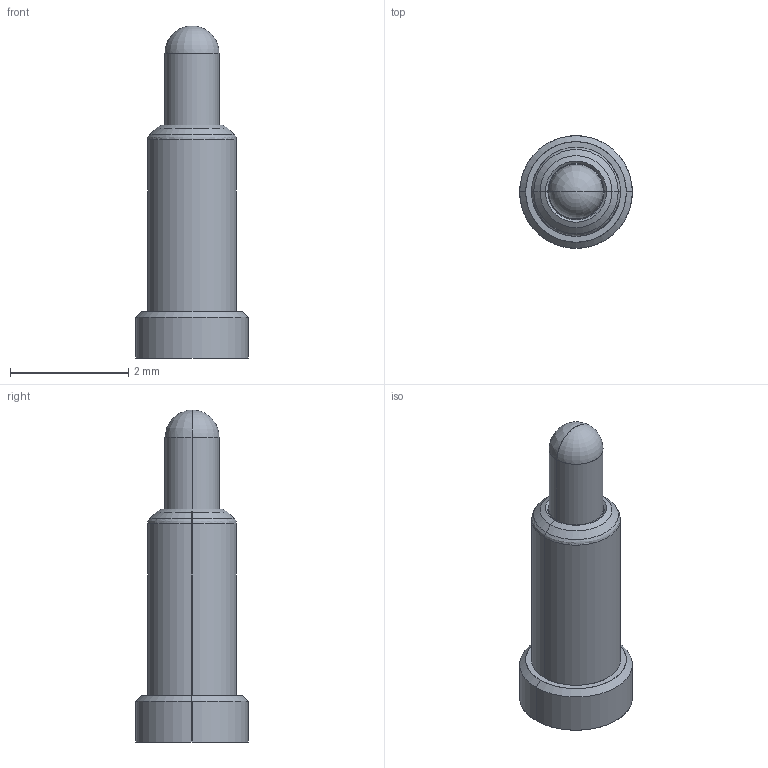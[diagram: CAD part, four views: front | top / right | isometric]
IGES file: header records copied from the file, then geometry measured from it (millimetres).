
Start section: SolidWorks IGES file using analytic representation for surfaces
Global section: file name: Y:\probe solid model mockups\Solidworks models\IGES Files\CP-059-026 IGES files\CP-059-026.IGS; native system: SolidWorks 2015; preprocessor: SolidWorks 2015; author: adalager; date: 160920.102329; units: inch
Bounding box: 1.91 x 1.91 x 5.61 mm (x, y, z)
Surface area: 28.9 mm2 (no closed solid volume)
Topology: 0 solids, 0 shells, 24 faces, 168 edges, 166 vertices
Faces by surface type: revolution 18, bspline 6
